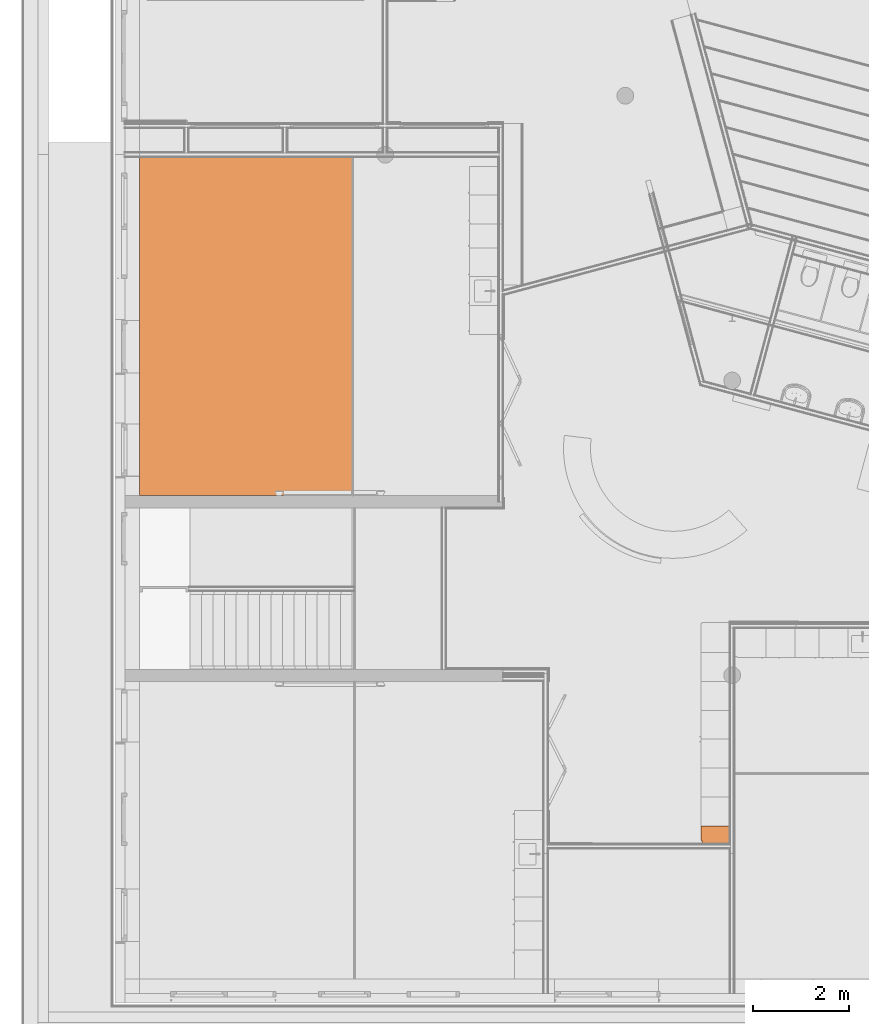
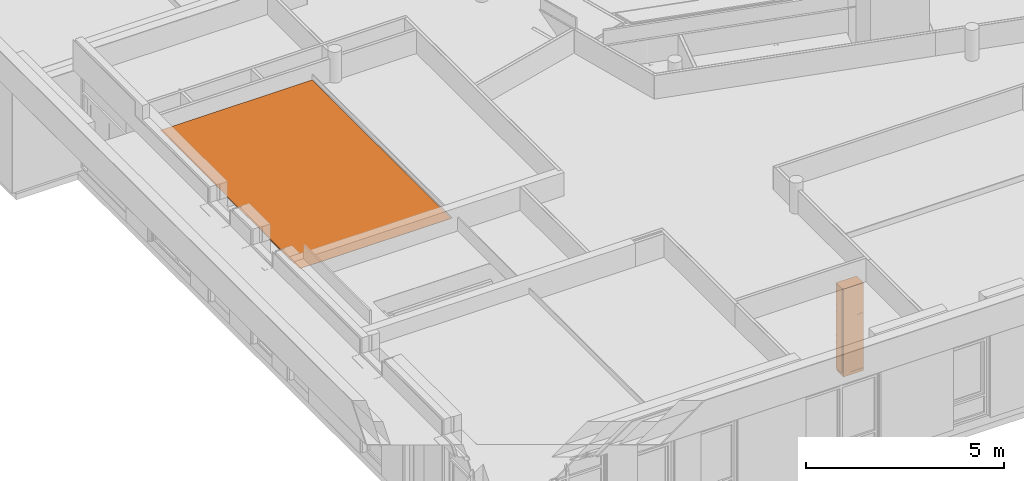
# One storey, part 120 of 167: 2 proxies.
"""IFC2X3 building model written with IfcOpenShell, lengths in millimetres."""

from ifc_helpers import new_model, entity, si_unit, converted_unit, derived_unit, money_unit, direction, frame, origin_with_axes, place, context, subcontext, project, spatial, open_shell, faceted_brep, surface_model, material, type_object, element, save


model = new_model("IFC2X3")

# Units and contexts
model_context = context("Model", 3, precision=0.01, world=origin_with_axes(), true_north=direction((0.0, 1.0)))
plan_context = context("Plan", 3, precision=0.01, world=origin_with_axes(), true_north=direction((0.0, 1.0)))
body_context = subcontext(model_context, "Body", "Model", "MODEL_VIEW")
ifc_project = project(units=[si_unit("LENGTHUNIT", "METRE", prefix="MILLI"), si_unit("AREAUNIT", "SQUARE_METRE"), si_unit("VOLUMEUNIT", "CUBIC_METRE"), converted_unit("PLANEANGLEUNIT", "DEGREE", entity("IfcPlaneAngleMeasure", 0.0174532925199), si_unit("PLANEANGLEUNIT", "RADIAN"), dimensions=[0, 0, 0, 0, 0, 0, 0]), si_unit("SOLIDANGLEUNIT", "STERADIAN"), money_unit("EUR"), converted_unit("TIMEUNIT", "Year", entity("IfcTimeMeasure", 31556926.0), si_unit("TIMEUNIT", "SECOND"), dimensions=[0, 0, 1, 0, 0, 0, 0]), si_unit("MASSUNIT", "GRAM", prefix="KILO"), si_unit("THERMODYNAMICTEMPERATUREUNIT", "DEGREE_CELSIUS"), si_unit("LUMINOUSINTENSITYUNIT", "LUMEN"), si_unit("ENERGYUNIT", "JOULE", prefix="MEGA"), derived_unit("THERMALCONDUCTANCEUNIT", [(si_unit("POWERUNIT", "WATT"), 1), (si_unit("LENGTHUNIT", "METRE"), -1), (si_unit("THERMODYNAMICTEMPERATUREUNIT", "KELVIN"), -1)]), derived_unit("SPECIFICHEATCAPACITYUNIT", [(si_unit("ENERGYUNIT", "JOULE"), 1), (si_unit("MASSUNIT", "GRAM", prefix="KILO"), -1), (si_unit("THERMODYNAMICTEMPERATUREUNIT", "KELVIN"), -1)]), derived_unit("MASSDENSITYUNIT", [(si_unit("MASSUNIT", "GRAM", prefix="KILO"), 1), (si_unit("VOLUMEUNIT", "CUBIC_METRE"), -1)])], contexts=[model_context, plan_context])

# Site, building, storey
site_placement = place(None, origin_with_axes())
site = spatial("IfcSite", under=ifc_project, at=site_placement, Name="Site", CompositionType="ELEMENT")
building_placement = place(site_placement, origin_with_axes())
building = spatial("IfcBuilding", under=site, at=building_placement, Name="Naam gebouw", CompositionType="ELEMENT")
storey_placement = place(building_placement, origin_with_axes())
storey = spatial("IfcBuildingStorey", under=building, at=storey_placement, Name="Begane grond", CompositionType="ELEMENT", Elevation=0.0)

# Proxies
ifc_material = material(Name="ALG - BINNENAFWERKING")
building_element_proxy_type_1 = type_object("IfcBuildingElementProxyType", Name="ALG - BINNENAFWERKING 10", PredefinedType="NOTDEFINED")
proxy_1_placement = place(storey_placement, frame((1950.0, 17950.0000903, 3050.0), z_axis=(0.0, 0.0, 1.0), x_axis=(1.0, 0.0, 0.0)))
element("IfcBuildingElementProxy", 1, at=proxy_1_placement, inside=storey, type_object=building_element_proxy_type_1, material=ifc_material, Name="23__Vloer-x", context=body_context, shape_type="Brep", body=[
    faceted_brep([(132.0, -3386.80537722, 0.0), (128.335281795, -3386.80537722, 0.0), (128.335281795, -3386.80537722, 10.0), (132.0, -3386.80537722, 10.0), (132.0, -4474.32537722, 0.0), (128.335281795, -4474.32537722, 0.0), (128.335281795, -4474.32537722, 10.0), (132.0, -4474.32537722, 10.0)], [[[0, 1, 2, 3]], [[4, 5, 1, 0]], [[5, 6, 2, 1]], [[3, 2, 6, 7]], [[4, 0, 3, 7]], [[7, 6, 5, 4]]]),
    faceted_brep([(4599.99997272, 0.0, 0.0), (4585.000019, 0.0, 0.0), (4585.000019, 0.0, 10.0), (4599.99997272, 0.0, 10.0), (4599.99997272, -7025.00009033, 0.0), (4585.000019, -7025.00009033, 0.0), (4585.000019, -7025.00009033, 10.0), (4599.99997272, -7025.00009033, 10.0)], [[[0, 1, 2, 3]], [[4, 5, 1, 0]], [[5, 6, 2, 1]], [[3, 2, 6, 7]], [[3, 7, 4, 0]], [[7, 6, 5, 4]]]),
    faceted_brep([(132.0, -5536.46537722, 0.0), (128.335281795, -5536.46537722, 0.0), (128.335281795, -5536.46537722, 10.0), (132.0, -5536.46537722, 10.0), (132.0, -6623.98537722, 0.0), (128.335281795, -6623.98537722, 0.0), (128.335281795, -6623.98537722, 10.0), (132.0, -6623.98537722, 10.0)], [[[0, 1, 2, 3]], [[4, 5, 1, 0]], [[5, 6, 2, 1]], [[3, 2, 6, 7]], [[4, 0, 3, 7]], [[7, 6, 5, 4]]]),
    faceted_brep([(150.0, -4474.32537722, 0.0), (150.0, -5536.46537722, 0.0), (150.0, -6623.98537722, 0.0), (150.0, -7025.00009033, 0.0), (150.0, -7025.00009033, 10.0), (150.0, 0.0, 10.0), (150.0, 0.0, 0.0), (150.0, -3386.80537722, 0.0), (4560.000019, 0.0, 0.0), (4560.000019, -7025.00009033, 0.0), (4560.000019, -7025.00009033, 10.0), (4560.000019, 0.0, 10.0)], [[[0, 1, 2, 3, 4, 5, 6, 7]], [[3, 2, 1, 0, 7, 6, 8, 9]], [[3, 9, 10, 4]], [[5, 4, 10, 11]], [[5, 11, 8, 6]], [[9, 8, 11, 10]]]),
])
building_element_proxy_type_2 = type_object("IfcBuildingElementProxyType", Name="Kast hoog 1D 24", PredefinedType="NOTDEFINED")
proxy_2_placement = place(storey_placement, frame((13750.0, 3723.34783859, 0.0), z_axis=(0.0, 0.0, 1.0), x_axis=(0.0, -1.0, 0.0)))
element("IfcBuildingElementProxy", 2, at=proxy_2_placement, inside=storey, type_object=building_element_proxy_type_2, Name="__Object-x", context=body_context, shape_type="SurfaceModel", body=[
    faceted_brep([(-70.0, 20.0, 1780.0), (-70.0, 20.0, 1800.0), (-330.0, 20.0, 1800.0), (-330.0, 20.0, 1780.0), (-70.0, 580.0, 1780.0), (-70.0, 580.0, 1800.0), (-330.0, 580.0, 1800.0), (-330.0, 580.0, 1780.0)], [[[0, 1, 2, 3]], [[4, 5, 1, 0]], [[1, 5, 6, 2]], [[3, 2, 6, 7]], [[0, 3, 7, 4]], [[7, 6, 5, 4]]]),
    faceted_brep([(0.0, 20.0, 0.0), (0.0, 20.0, 90.0), (-350.0, 20.0, 90.0), (-350.0, 20.0, 0.0), (0.0, 600.0, 0.0), (0.0, 600.0, 90.0), (-350.0, 600.0, 90.0), (-350.0, 600.0, 0.0)], [[[0, 1, 2, 3]], [[4, 5, 1, 0]], [[1, 5, 6, 2]], [[3, 2, 6, 7]], [[0, 3, 7, 4]], [[7, 6, 5, 4]]]),
    faceted_brep([(-50.0, 20.0, 2680.0), (-50.0, 20.0, 2700.0), (-70.0, 20.0, 2700.0), (-70.0, 20.0, 2680.0), (-50.0, 600.0, 2680.0), (-50.0, 600.0, 2700.0), (-70.0, 600.0, 2700.0), (-330.0, 600.0, 2700.0), (-350.0, 600.0, 2700.0), (-350.0, 20.0, 2700.0), (-330.0, 20.0, 2700.0), (-330.0, 20.0, 2680.0), (-350.0, 20.0, 2680.0), (-350.0, 600.0, 2680.0), (-330.0, 600.0, 2680.0), (-70.0, 600.0, 2680.0)], [[[0, 1, 2, 3]], [[4, 5, 1, 0]], [[1, 5, 6, 7, 8, 9, 10, 2]], [[3, 2, 10, 11]], [[0, 3, 11, 12, 13, 14, 15, 4]], [[15, 6, 5, 4]], [[14, 7, 6, 15]], [[13, 8, 7, 14]], [[12, 9, 8, 13]], [[11, 10, 9, 12]]]),
    faceted_brep([(-50.0, 20.0, 90.0), (-50.0, 20.0, 110.0), (-70.0, 20.0, 110.0), (-70.0, 20.0, 90.0), (-50.0, 600.0, 90.0), (-50.0, 600.0, 110.0), (-70.0, 600.0, 110.0), (-330.0, 600.0, 110.0), (-350.0, 600.0, 110.0), (-350.0, 20.0, 110.0), (-330.0, 20.0, 110.0), (-330.0, 20.0, 90.0), (-350.0, 20.0, 90.0), (-350.0, 600.0, 90.0), (-330.0, 600.0, 90.0), (-70.0, 600.0, 90.0)], [[[0, 1, 2, 3]], [[4, 5, 1, 0]], [[1, 5, 6, 7, 8, 9, 10, 2]], [[3, 2, 10, 11]], [[0, 3, 11, 12, 13, 14, 15, 4]], [[15, 6, 5, 4]], [[14, 7, 6, 15]], [[13, 8, 7, 14]], [[12, 9, 8, 13]], [[11, 10, 9, 12]]]),
    faceted_brep([(-50.0, 20.0, 110.0), (-50.0, 20.0, 2680.0), (-70.0, 20.0, 2680.0), (-70.0, 20.0, 110.0), (-50.0, 600.0, 110.0), (-50.0, 600.0, 2680.0), (-350.0, 600.0, 2680.0), (-350.0, 20.0, 2680.0), (-330.0, 20.0, 2680.0), (-330.0, 580.0, 2680.0), (-70.0, 580.0, 2680.0), (-70.0, 580.0, 110.0), (-330.0, 580.0, 110.0), (-330.0, 20.0, 110.0), (-350.0, 20.0, 110.0), (-350.0, 600.0, 110.0)], [[[0, 1, 2, 3]], [[4, 5, 1, 0]], [[1, 5, 6, 7, 8, 9, 10, 2]], [[3, 2, 10, 11]], [[0, 3, 11, 12, 13, 14, 15, 4]], [[15, 6, 5, 4]], [[14, 7, 6, 15]], [[13, 8, 7, 14]], [[12, 9, 8, 13]], [[11, 10, 9, 12]]]),
    faceted_brep([(-330.0, 20.0, 414.0), (-330.0, 20.0, 434.0), (-330.0, 580.0, 434.0), (-330.0, 580.0, 414.0), (-70.0, 20.0, 414.0), (-70.0, 20.0, 434.0), (-70.0, 580.0, 434.0), (-70.0, 580.0, 414.0)], [[[0, 1, 2, 3]], [[4, 5, 1, 0]], [[1, 5, 6, 2]], [[3, 2, 6, 7]], [[0, 3, 7, 4]], [[7, 6, 5, 4]]]),
    faceted_brep([(-330.0, 20.0, 758.0), (-330.0, 20.0, 778.0), (-330.0, 580.0, 778.0), (-330.0, 580.0, 758.0), (-70.0, 20.0, 758.0), (-70.0, 20.0, 778.0), (-70.0, 580.0, 778.0), (-70.0, 580.0, 758.0)], [[[0, 1, 2, 3]], [[4, 5, 1, 0]], [[1, 5, 6, 2]], [[3, 2, 6, 7]], [[0, 3, 7, 4]], [[7, 6, 5, 4]]]),
    faceted_brep([(-330.0, 20.0, 1102.0), (-330.0, 20.0, 1122.0), (-330.0, 580.0, 1122.0), (-330.0, 580.0, 1102.0), (-70.0, 20.0, 1102.0), (-70.0, 20.0, 1122.0), (-70.0, 580.0, 1122.0), (-70.0, 580.0, 1102.0)], [[[0, 1, 2, 3]], [[4, 5, 1, 0]], [[1, 5, 6, 2]], [[3, 2, 6, 7]], [[0, 3, 7, 4]], [[7, 6, 5, 4]]]),
    faceted_brep([(-330.0, 20.0, 1446.0), (-330.0, 20.0, 1466.0), (-330.0, 580.0, 1466.0), (-330.0, 580.0, 1446.0), (-70.0, 20.0, 1446.0), (-70.0, 20.0, 1466.0), (-70.0, 580.0, 1466.0), (-70.0, 580.0, 1446.0)], [[[0, 1, 2, 3]], [[4, 5, 1, 0]], [[1, 5, 6, 2]], [[3, 2, 6, 7]], [[0, 3, 7, 4]], [[7, 6, 5, 4]]]),
    faceted_brep([(-51.5, 20.0, 91.5), (-51.5, 0.0, 91.5), (-348.5, 0.0, 91.5), (-348.5, 20.0, 91.5), (-51.5, 20.0, 1788.5), (-51.5, 0.0, 1788.5), (-348.5, 0.0, 1788.5), (-348.5, 20.0, 1788.5)], [[[0, 1, 2, 3]], [[4, 5, 1, 0]], [[1, 5, 6, 2]], [[3, 2, 6, 7]], [[0, 3, 7, 4]], [[7, 6, 5, 4]]]),
    faceted_brep([(-301.397777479, -27.7764571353, 891.5), (-301.5, -27.0, 891.5), (-301.397777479, -26.2235428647, 891.5), (-301.098076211, -25.5, 891.5), (-300.621320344, -24.8786796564, 891.5), (-300.0, -24.4019237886, 891.5), (-299.276457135, -24.1022225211, 891.5), (-298.5, -24.0, 891.5), (-297.723542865, -24.1022225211, 891.5), (-297.0, -24.4019237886, 891.5), (-296.378679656, -24.8786796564, 891.5), (-295.901923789, -25.5, 891.5), (-295.602222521, -26.2235428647, 891.5), (-295.5, -27.0, 891.5), (-295.602222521, -27.7764571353, 891.5), (-295.901923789, -28.5, 891.5), (-296.378679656, -29.1213203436, 891.5), (-297.0, -29.5980762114, 891.5), (-297.723542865, -29.8977774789, 891.5), (-298.5, -30.0, 891.5), (-299.276457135, -29.8977774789, 891.5), (-300.0, -29.5980762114, 891.5), (-300.621320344, -29.1213203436, 891.5), (-301.098076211, -28.5, 891.5), (-301.397777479, -27.7764571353, 1141.5), (-301.5, -27.0, 1141.5), (-301.397777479, -26.2235428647, 1141.5), (-301.098076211, -25.5, 1141.5), (-300.621320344, -24.8786796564, 1141.5), (-300.0, -24.4019237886, 1141.5), (-299.276457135, -24.1022225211, 1141.5), (-298.5, -24.0, 1141.5), (-297.723542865, -24.1022225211, 1141.5), (-297.0, -24.4019237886, 1141.5), (-296.378679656, -24.8786796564, 1141.5), (-295.901923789, -25.5, 1141.5), (-295.602222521, -26.2235428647, 1141.5), (-295.5, -27.0, 1141.5), (-295.602222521, -27.7764571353, 1141.5), (-295.901923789, -28.5, 1141.5), (-296.378679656, -29.1213203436, 1141.5), (-297.0, -29.5980762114, 1141.5), (-297.723542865, -29.8977774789, 1141.5), (-298.5, -30.0, 1141.5), (-299.276457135, -29.8977774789, 1141.5), (-300.0, -29.5980762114, 1141.5), (-300.621320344, -29.1213203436, 1141.5), (-301.098076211, -28.5, 1141.5)], [[[0, 1, 2, 3, 4, 5, 6, 7, 8, 9, 10, 11, 12, 13, 14, 15, 16, 17, 18, 19, 20, 21, 22, 23]], [[0, 24, 25, 1]], [[1, 25, 26, 2]], [[2, 26, 27, 3]], [[3, 27, 28, 4]], [[4, 28, 29, 5]], [[5, 29, 30, 6]], [[6, 30, 31, 7]], [[7, 31, 32, 8]], [[8, 32, 33, 9]], [[9, 33, 34, 10]], [[10, 34, 35, 11]], [[11, 35, 36, 12]], [[12, 36, 37, 13]], [[13, 37, 38, 14]], [[14, 38, 39, 15]], [[15, 39, 40, 16]], [[16, 40, 41, 17]], [[17, 41, 42, 18]], [[18, 42, 43, 19]], [[19, 43, 44, 20]], [[20, 44, 45, 21]], [[21, 45, 46, 22]], [[22, 46, 47, 23]], [[23, 47, 24, 0]], [[24, 47, 46, 45, 44, 43, 42, 41, 40, 39, 38, 37, 36, 35, 34, 33, 32, 31, 30, 29, 28, 27, 26, 25]]]),
    surface_model("IfcShellBasedSurfaceModel", [(-299.147047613, -24.070609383, 914.085185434), (-299.147047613, 0.0, 914.085185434), (-298.5, 0.0, 914.0), (-298.5, -24.0, 914.0), (-299.75, -24.2728219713, 914.334936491), (-299.75, 0.0, 914.334936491), (-300.267766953, 0.0, 914.732233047), (-300.665063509, 0.0, 915.25), (-300.914814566, 0.0, 915.852952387), (-301.0, 0.0, 916.5), (-300.914814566, 0.0, 917.147047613), (-300.665063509, 0.0, 917.75), (-300.267766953, 0.0, 918.267766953), (-299.75, 0.0, 918.665063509), (-299.147047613, 0.0, 918.914814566), (-298.5, 0.0, 919.0), (-297.852952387, 0.0, 918.914814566), (-297.25, 0.0, 918.665063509), (-296.732233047, 0.0, 918.267766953), (-296.334936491, 0.0, 917.75), (-296.085185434, 0.0, 917.147047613), (-296.0, 0.0, 916.5), (-296.085185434, 0.0, 915.852952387), (-296.334936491, 0.0, 915.25), (-296.732233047, 0.0, 914.732233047), (-297.25, 0.0, 914.334936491), (-297.852952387, 0.0, 914.085185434), (-297.852952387, -24.070609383, 914.085185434), (-300.267766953, -24.5761600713, 914.732233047), (-300.665063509, -24.9233440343, 915.25), (-300.914814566, -25.2199239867, 915.852952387), (-301.0, -25.3416876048, 916.5), (-300.914814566, -25.2199239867, 917.147047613), (-300.665063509, -24.9233440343, 917.75), (-300.267766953, -24.5761600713, 918.267766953), (-299.75, -24.2728219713, 918.665063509), (-299.147047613, -24.070609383, 918.914814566), (-298.5, -24.0, 919.0), (-297.852952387, -24.070609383, 918.914814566), (-297.25, -24.2728219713, 918.665063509), (-296.732233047, -24.5761600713, 918.267766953), (-296.334936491, -24.9233440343, 917.75), (-296.085185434, -25.2199239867, 917.147047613), (-296.0, -25.3416876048, 916.5), (-296.085185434, -25.2199239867, 915.852952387), (-296.334936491, -24.9233440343, 915.25), (-296.732233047, -24.5761600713, 914.732233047), (-297.25, -24.2728219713, 914.334936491)], [open_shell([[[0, 1, 2, 3]], [[4, 5, 1, 0]], [[1, 5, 6, 7, 8, 9, 10, 11, 12, 13, 14, 15, 16, 17, 18, 19, 20, 21, 22, 23, 24, 25, 26, 2]], [[3, 2, 26, 27]], [[28, 6, 5, 4]], [[29, 7, 6, 28]], [[30, 8, 7, 29]], [[31, 9, 8, 30]], [[32, 10, 9, 31]], [[33, 11, 10, 32]], [[34, 12, 11, 33]], [[35, 13, 12, 34]], [[36, 14, 13, 35]], [[37, 15, 14, 36]], [[38, 16, 15, 37]], [[39, 17, 16, 38]], [[40, 18, 17, 39]], [[41, 19, 18, 40]], [[42, 20, 19, 41]], [[43, 21, 20, 42]], [[44, 22, 21, 43]], [[45, 23, 22, 44]], [[46, 24, 23, 45]], [[47, 25, 24, 46]], [[27, 26, 25, 47]]])]),
    surface_model("IfcShellBasedSurfaceModel", [(-299.147047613, -24.070609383, 1114.08518543), (-299.147047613, 0.0, 1114.08518543), (-298.5, 0.0, 1114.0), (-298.5, -24.0, 1114.0), (-299.75, -24.2728219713, 1114.33493649), (-299.75, 0.0, 1114.33493649), (-300.267766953, 0.0, 1114.73223305), (-300.665063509, 0.0, 1115.25), (-300.914814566, 0.0, 1115.85295239), (-301.0, 0.0, 1116.5), (-300.914814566, 0.0, 1117.14704761), (-300.665063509, 0.0, 1117.75), (-300.267766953, 0.0, 1118.26776695), (-299.75, 0.0, 1118.66506351), (-299.147047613, 0.0, 1118.91481457), (-298.5, 0.0, 1119.0), (-297.852952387, 0.0, 1118.91481457), (-297.25, 0.0, 1118.66506351), (-296.732233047, 0.0, 1118.26776695), (-296.334936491, 0.0, 1117.75), (-296.085185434, 0.0, 1117.14704761), (-296.0, 0.0, 1116.5), (-296.085185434, 0.0, 1115.85295239), (-296.334936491, 0.0, 1115.25), (-296.732233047, 0.0, 1114.73223305), (-297.25, 0.0, 1114.33493649), (-297.852952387, 0.0, 1114.08518543), (-297.852952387, -24.070609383, 1114.08518543), (-300.267766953, -24.5761600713, 1114.73223305), (-300.665063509, -24.9233440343, 1115.25), (-300.914814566, -25.2199239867, 1115.85295239), (-301.0, -25.3416876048, 1116.5), (-300.914814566, -25.2199239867, 1117.14704761), (-300.665063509, -24.9233440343, 1117.75), (-300.267766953, -24.5761600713, 1118.26776695), (-299.75, -24.2728219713, 1118.66506351), (-299.147047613, -24.070609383, 1118.91481457), (-298.5, -24.0, 1119.0), (-297.852952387, -24.070609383, 1118.91481457), (-297.25, -24.2728219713, 1118.66506351), (-296.732233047, -24.5761600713, 1118.26776695), (-296.334936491, -24.9233440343, 1117.75), (-296.085185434, -25.2199239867, 1117.14704761), (-296.0, -25.3416876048, 1116.5), (-296.085185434, -25.2199239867, 1115.85295239), (-296.334936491, -24.9233440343, 1115.25), (-296.732233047, -24.5761600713, 1114.73223305), (-297.25, -24.2728219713, 1114.33493649)], [open_shell([[[0, 1, 2, 3]], [[4, 5, 1, 0]], [[1, 5, 6, 7, 8, 9, 10, 11, 12, 13, 14, 15, 16, 17, 18, 19, 20, 21, 22, 23, 24, 25, 26, 2]], [[3, 2, 26, 27]], [[28, 6, 5, 4]], [[29, 7, 6, 28]], [[30, 8, 7, 29]], [[31, 9, 8, 30]], [[32, 10, 9, 31]], [[33, 11, 10, 32]], [[34, 12, 11, 33]], [[35, 13, 12, 34]], [[36, 14, 13, 35]], [[37, 15, 14, 36]], [[38, 16, 15, 37]], [[39, 17, 16, 38]], [[40, 18, 17, 39]], [[41, 19, 18, 40]], [[42, 20, 19, 41]], [[43, 21, 20, 42]], [[44, 22, 21, 43]], [[45, 23, 22, 44]], [[46, 24, 23, 45]], [[47, 25, 24, 46]], [[27, 26, 25, 47]]])]),
    faceted_brep([(-51.5, 20.0, 1791.5), (-51.5, 0.0, 1791.5), (-348.5, 0.0, 1791.5), (-348.5, 20.0, 1791.5), (-51.5, 20.0, 2698.5), (-51.5, 0.0, 2698.5), (-348.5, 0.0, 2698.5), (-348.5, 20.0, 2698.5)], [[[0, 1, 2, 3]], [[4, 5, 1, 0]], [[1, 5, 6, 2]], [[3, 2, 6, 7]], [[0, 3, 7, 4]], [[7, 6, 5, 4]]]),
    faceted_brep([(-301.397777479, -27.7764571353, 1841.5), (-301.5, -27.0, 1841.5), (-301.397777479, -26.2235428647, 1841.5), (-301.098076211, -25.5, 1841.5), (-300.621320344, -24.8786796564, 1841.5), (-300.0, -24.4019237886, 1841.5), (-299.276457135, -24.1022225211, 1841.5), (-298.5, -24.0, 1841.5), (-297.723542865, -24.1022225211, 1841.5), (-297.0, -24.4019237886, 1841.5), (-296.378679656, -24.8786796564, 1841.5), (-295.901923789, -25.5, 1841.5), (-295.602222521, -26.2235428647, 1841.5), (-295.5, -27.0, 1841.5), (-295.602222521, -27.7764571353, 1841.5), (-295.901923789, -28.5, 1841.5), (-296.378679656, -29.1213203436, 1841.5), (-297.0, -29.5980762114, 1841.5), (-297.723542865, -29.8977774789, 1841.5), (-298.5, -30.0, 1841.5), (-299.276457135, -29.8977774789, 1841.5), (-300.0, -29.5980762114, 1841.5), (-300.621320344, -29.1213203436, 1841.5), (-301.098076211, -28.5, 1841.5), (-301.397777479, -27.7764571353, 2091.5), (-301.5, -27.0, 2091.5), (-301.397777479, -26.2235428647, 2091.5), (-301.098076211, -25.5, 2091.5), (-300.621320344, -24.8786796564, 2091.5), (-300.0, -24.4019237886, 2091.5), (-299.276457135, -24.1022225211, 2091.5), (-298.5, -24.0, 2091.5), (-297.723542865, -24.1022225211, 2091.5), (-297.0, -24.4019237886, 2091.5), (-296.378679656, -24.8786796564, 2091.5), (-295.901923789, -25.5, 2091.5), (-295.602222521, -26.2235428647, 2091.5), (-295.5, -27.0, 2091.5), (-295.602222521, -27.7764571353, 2091.5), (-295.901923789, -28.5, 2091.5), (-296.378679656, -29.1213203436, 2091.5), (-297.0, -29.5980762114, 2091.5), (-297.723542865, -29.8977774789, 2091.5), (-298.5, -30.0, 2091.5), (-299.276457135, -29.8977774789, 2091.5), (-300.0, -29.5980762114, 2091.5), (-300.621320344, -29.1213203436, 2091.5), (-301.098076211, -28.5, 2091.5)], [[[0, 1, 2, 3, 4, 5, 6, 7, 8, 9, 10, 11, 12, 13, 14, 15, 16, 17, 18, 19, 20, 21, 22, 23]], [[0, 24, 25, 1]], [[1, 25, 26, 2]], [[2, 26, 27, 3]], [[3, 27, 28, 4]], [[4, 28, 29, 5]], [[5, 29, 30, 6]], [[6, 30, 31, 7]], [[7, 31, 32, 8]], [[8, 32, 33, 9]], [[9, 33, 34, 10]], [[10, 34, 35, 11]], [[11, 35, 36, 12]], [[12, 36, 37, 13]], [[13, 37, 38, 14]], [[14, 38, 39, 15]], [[15, 39, 40, 16]], [[16, 40, 41, 17]], [[17, 41, 42, 18]], [[18, 42, 43, 19]], [[19, 43, 44, 20]], [[20, 44, 45, 21]], [[21, 45, 46, 22]], [[22, 46, 47, 23]], [[23, 47, 24, 0]], [[24, 47, 46, 45, 44, 43, 42, 41, 40, 39, 38, 37, 36, 35, 34, 33, 32, 31, 30, 29, 28, 27, 26, 25]]]),
    surface_model("IfcShellBasedSurfaceModel", [(-299.147047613, -24.070609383, 1864.08518543), (-299.147047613, 0.0, 1864.08518543), (-298.5, 0.0, 1864.0), (-298.5, -24.0, 1864.0), (-299.75, -24.2728219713, 1864.33493649), (-299.75, 0.0, 1864.33493649), (-300.267766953, 0.0, 1864.73223305), (-300.665063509, 0.0, 1865.25), (-300.914814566, 0.0, 1865.85295239), (-301.0, 0.0, 1866.5), (-300.914814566, 0.0, 1867.14704761), (-300.665063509, 0.0, 1867.75), (-300.267766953, 0.0, 1868.26776695), (-299.75, 0.0, 1868.66506351), (-299.147047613, 0.0, 1868.91481457), (-298.5, 0.0, 1869.0), (-297.852952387, 0.0, 1868.91481457), (-297.25, 0.0, 1868.66506351), (-296.732233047, 0.0, 1868.26776695), (-296.334936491, 0.0, 1867.75), (-296.085185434, 0.0, 1867.14704761), (-296.0, 0.0, 1866.5), (-296.085185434, 0.0, 1865.85295239), (-296.334936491, 0.0, 1865.25), (-296.732233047, 0.0, 1864.73223305), (-297.25, 0.0, 1864.33493649), (-297.852952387, 0.0, 1864.08518543), (-297.852952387, -24.070609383, 1864.08518543), (-300.267766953, -24.5761600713, 1864.73223305), (-300.665063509, -24.9233440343, 1865.25), (-300.914814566, -25.2199239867, 1865.85295239), (-301.0, -25.3416876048, 1866.5), (-300.914814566, -25.2199239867, 1867.14704761), (-300.665063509, -24.9233440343, 1867.75), (-300.267766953, -24.5761600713, 1868.26776695), (-299.75, -24.2728219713, 1868.66506351), (-299.147047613, -24.070609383, 1868.91481457), (-298.5, -24.0, 1869.0), (-297.852952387, -24.070609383, 1868.91481457), (-297.25, -24.2728219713, 1868.66506351), (-296.732233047, -24.5761600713, 1868.26776695), (-296.334936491, -24.9233440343, 1867.75), (-296.085185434, -25.2199239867, 1867.14704761), (-296.0, -25.3416876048, 1866.5), (-296.085185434, -25.2199239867, 1865.85295239), (-296.334936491, -24.9233440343, 1865.25), (-296.732233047, -24.5761600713, 1864.73223305), (-297.25, -24.2728219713, 1864.33493649)], [open_shell([[[0, 1, 2, 3]], [[4, 5, 1, 0]], [[1, 5, 6, 7, 8, 9, 10, 11, 12, 13, 14, 15, 16, 17, 18, 19, 20, 21, 22, 23, 24, 25, 26, 2]], [[3, 2, 26, 27]], [[28, 6, 5, 4]], [[29, 7, 6, 28]], [[30, 8, 7, 29]], [[31, 9, 8, 30]], [[32, 10, 9, 31]], [[33, 11, 10, 32]], [[34, 12, 11, 33]], [[35, 13, 12, 34]], [[36, 14, 13, 35]], [[37, 15, 14, 36]], [[38, 16, 15, 37]], [[39, 17, 16, 38]], [[40, 18, 17, 39]], [[41, 19, 18, 40]], [[42, 20, 19, 41]], [[43, 21, 20, 42]], [[44, 22, 21, 43]], [[45, 23, 22, 44]], [[46, 24, 23, 45]], [[47, 25, 24, 46]], [[27, 26, 25, 47]]])]),
    surface_model("IfcShellBasedSurfaceModel", [(-299.147047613, -24.070609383, 2064.08518543), (-299.147047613, 0.0, 2064.08518543), (-298.5, 0.0, 2064.0), (-298.5, -24.0, 2064.0), (-299.75, -24.2728219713, 2064.33493649), (-299.75, 0.0, 2064.33493649), (-300.267766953, 0.0, 2064.73223305), (-300.665063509, 0.0, 2065.25), (-300.914814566, 0.0, 2065.85295239), (-301.0, 0.0, 2066.5), (-300.914814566, 0.0, 2067.14704761), (-300.665063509, 0.0, 2067.75), (-300.267766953, 0.0, 2068.26776695), (-299.75, 0.0, 2068.66506351), (-299.147047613, 0.0, 2068.91481457), (-298.5, 0.0, 2069.0), (-297.852952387, 0.0, 2068.91481457), (-297.25, 0.0, 2068.66506351), (-296.732233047, 0.0, 2068.26776695), (-296.334936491, 0.0, 2067.75), (-296.085185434, 0.0, 2067.14704761), (-296.0, 0.0, 2066.5), (-296.085185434, 0.0, 2065.85295239), (-296.334936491, 0.0, 2065.25), (-296.732233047, 0.0, 2064.73223305), (-297.25, 0.0, 2064.33493649), (-297.852952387, 0.0, 2064.08518543), (-297.852952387, -24.070609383, 2064.08518543), (-300.267766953, -24.5761600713, 2064.73223305), (-300.665063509, -24.9233440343, 2065.25), (-300.914814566, -25.2199239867, 2065.85295239), (-301.0, -25.3416876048, 2066.5), (-300.914814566, -25.2199239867, 2067.14704761), (-300.665063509, -24.9233440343, 2067.75), (-300.267766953, -24.5761600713, 2068.26776695), (-299.75, -24.2728219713, 2068.66506351), (-299.147047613, -24.070609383, 2068.91481457), (-298.5, -24.0, 2069.0), (-297.852952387, -24.070609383, 2068.91481457), (-297.25, -24.2728219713, 2068.66506351), (-296.732233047, -24.5761600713, 2068.26776695), (-296.334936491, -24.9233440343, 2067.75), (-296.085185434, -25.2199239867, 2067.14704761), (-296.0, -25.3416876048, 2066.5), (-296.085185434, -25.2199239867, 2065.85295239), (-296.334936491, -24.9233440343, 2065.25), (-296.732233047, -24.5761600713, 2064.73223305), (-297.25, -24.2728219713, 2064.33493649)], [open_shell([[[0, 1, 2, 3]], [[4, 5, 1, 0]], [[1, 5, 6, 7, 8, 9, 10, 11, 12, 13, 14, 15, 16, 17, 18, 19, 20, 21, 22, 23, 24, 25, 26, 2]], [[3, 2, 26, 27]], [[28, 6, 5, 4]], [[29, 7, 6, 28]], [[30, 8, 7, 29]], [[31, 9, 8, 30]], [[32, 10, 9, 31]], [[33, 11, 10, 32]], [[34, 12, 11, 33]], [[35, 13, 12, 34]], [[36, 14, 13, 35]], [[37, 15, 14, 36]], [[38, 16, 15, 37]], [[39, 17, 16, 38]], [[40, 18, 17, 39]], [[41, 19, 18, 40]], [[42, 20, 19, 41]], [[43, 21, 20, 42]], [[44, 22, 21, 43]], [[45, 23, 22, 44]], [[46, 24, 23, 45]], [[47, 25, 24, 46]], [[27, 26, 25, 47]]])]),
    faceted_brep([(-50.0, 598.5, 91.5), (0.0, 598.5, 91.5), (0.0, 21.5, 91.5), (-50.0, 21.5, 91.5), (-50.0, 598.5, 1788.5), (0.0, 598.5, 1788.5), (0.0, 21.5, 1788.5), (-50.0, 21.5, 1788.5)], [[[0, 1, 2, 3]], [[4, 5, 1, 0]], [[1, 5, 6, 2]], [[3, 2, 6, 7]], [[0, 3, 7, 4]], [[7, 6, 5, 4]]]),
    faceted_brep([(-50.0, 598.5, 1791.5), (0.0, 598.5, 1791.5), (0.0, 21.5, 1791.5), (-50.0, 21.5, 1791.5), (-50.0, 598.5, 2698.5), (0.0, 598.5, 2698.5), (0.0, 21.5, 2698.5), (-50.0, 21.5, 2698.5)], [[[0, 1, 2, 3]], [[4, 5, 1, 0]], [[1, 5, 6, 2]], [[3, 2, 6, 7]], [[0, 3, 7, 4]], [[7, 6, 5, 4]]]),
])

save(model, "model.ifc")
